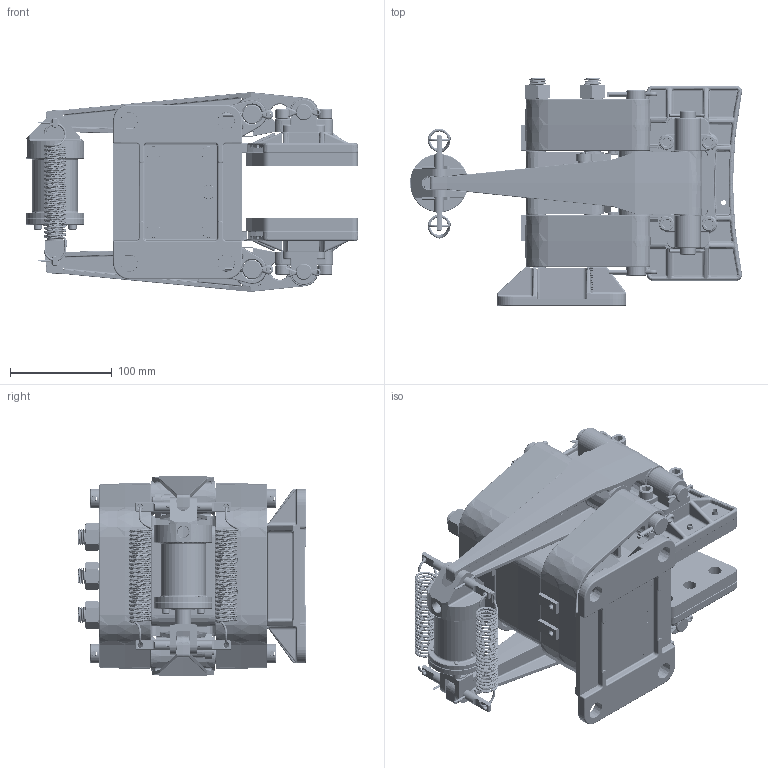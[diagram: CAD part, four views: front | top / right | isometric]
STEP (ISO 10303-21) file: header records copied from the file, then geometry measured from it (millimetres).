
FILE_DESCRIPTION (( 'STEP AP214' ), '1' );
FILE_NAME ('5021-H.STEP', '2025-04-10T18:31:02', ( '' ), ( '' ), 'SwSTEP 2.0', 'SolidWorks 2023', '' );
FILE_SCHEMA (( 'AUTOMOTIVE_DESIGN' ));
Products named in the file (1): 5021-H
Bounding box: 326.11 x 224.03 x 196.3 mm (x, y, z)
Surface area: 678116 mm2 (no closed solid volume)
Topology: 0 solids, 130 shells, 3270 faces, 9748 edges, 6360 vertices
Faces by surface type: cylinder 1205, plane 776, bspline 486, cone 475, torus 302, sphere 26
Entity records: 168070 total; most frequent: CARTESIAN_POINT 88731, ORIENTED_EDGE 16162, DIRECTION 15758, EDGE_CURVE 9677, VERTEX_POINT 6360, AXIS2_PLACEMENT_3D 6150, EDGE_LOOP 3568, VECTOR 3458
